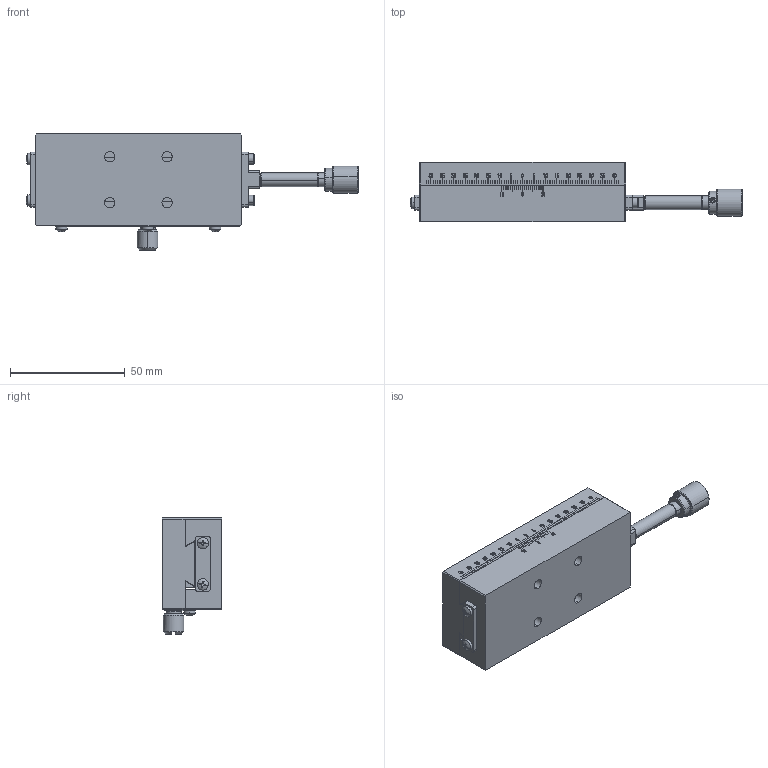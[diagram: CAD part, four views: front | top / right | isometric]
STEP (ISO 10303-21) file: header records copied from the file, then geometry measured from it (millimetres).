
FILE_DESCRIPTION (( 'STEP AP203' ), '1' );
FILE_NAME ('BLS90.STEP', '2024-02-26T06:30:44', ( 'China' ), ( 'Microsoft' ), 'SwSTEP 2.0', 'SolidWorks 2024', '' );
FILE_SCHEMA (( 'CONFIG_CONTROL_DESIGN' ));
Products named in the file (1): BLS90
Bounding box: 144.87 x 26 x 50.7 mm (x, y, z)
Volume: 90759.7 mm3; surface area: 35438.9 mm2
Topology: 18 solids, 18 shells, 1839 faces, 5086 edges, 3319 vertices
Faces by surface type: plane 1088, bspline 375, cylinder 260, cone 98, sphere 10, torus 8
Entity records: 73680 total; most frequent: CARTESIAN_POINT 31551, ORIENTED_EDGE 10060, DIRECTION 6510, EDGE_CURVE 5030, VERTEX_POINT 3319, VECTOR 2512, LINE 2512, AXIS2_PLACEMENT_3D 1999
